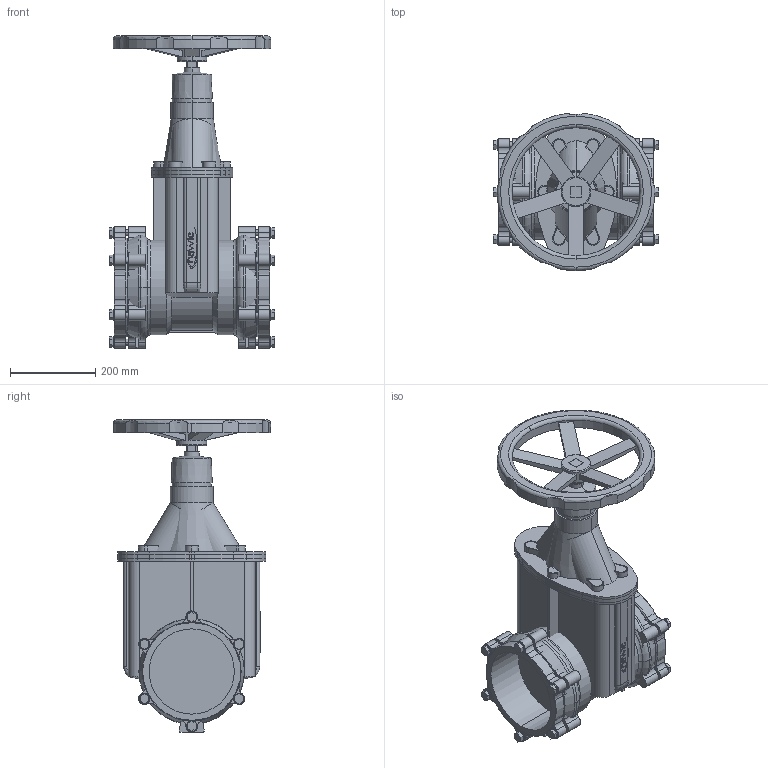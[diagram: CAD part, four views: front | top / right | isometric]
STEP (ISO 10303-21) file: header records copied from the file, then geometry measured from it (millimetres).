
FILE_DESCRIPTION(('STEP AP214'),'1');
FILE_NAME('S:/EK/USER/CAT6/3DHomepage/4040E2/4040E2-PN16-DN200-200-HANDRAD.STP','2012-04-24T11:23:17',(' '),(' '),'Spatial InterOp 3D',' ',' ');
FILE_SCHEMA(('automotive_design'));
Length unit declared in the file: millimetre
Products named in the file (115): 3D-Objekt
Bounding box: 387.6 x 368.75 x 732 mm (x, y, z)
Volume: 25048553.9 mm3; surface area: 2128866.4 mm2
Topology: 115 solids, 115 shells, 955 faces, 2147 edges, 1430 vertices
Faces by surface type: plane 535, cylinder 366, torus 36, cone 14, bspline 4
Entity records: 37536 total; most frequent: DIRECTION 5143, CARTESIAN_POINT 5025, ORIENTED_EDGE 4294, EDGE_CURVE 2147, AXIS2_PLACEMENT_3D 1940, VERTEX_POINT 1430, LINE 1263, VECTOR 1263
